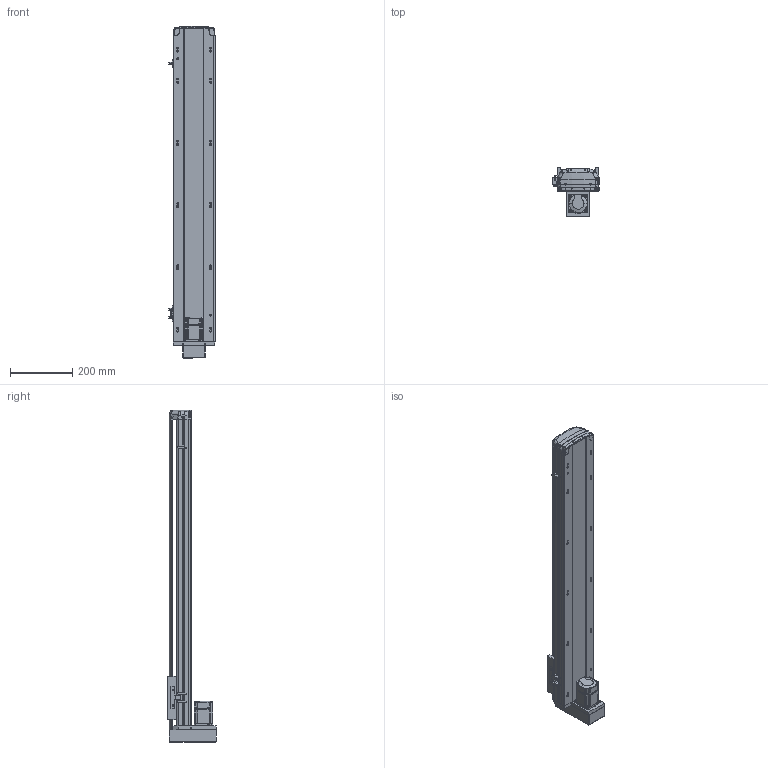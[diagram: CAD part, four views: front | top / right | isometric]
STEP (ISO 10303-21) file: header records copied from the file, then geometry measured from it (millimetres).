
FILE_DESCRIPTION (( 'STEP AP214' ), '1' );
FILE_NAME ('RTH14-XX-800-M-M20-C4.STEP', '2025-10-25T02:51:15', ( 'Microsoft' ), ( 'Microsoft' ), 'SwSTEP 2.0', 'SolidWorks 2018', '' );
FILE_SCHEMA (( 'AUTOMOTIVE_DESIGN' ));
Length unit declared in the file: millimetre
Products named in the file (10): N_OMRON EE-SX672 传感器^RTH14-XX-XX-M-M20-C4; N_RTH13-L-012感应片（外置）^RTH14-XX-XX-M-M20-C4; RTH14-XX-800-M-M20-C4; N_RTH14-R-004-SFSR16賑釱^RTH14-XX-XX-M-M20-C4; N_RTH13-M-018裔赽^RTH14-XX-XX-M-M20-C4; N_RTH14-M-007P奻裔^RTH14-XX-XX-M-M20-C4; N_MSMD022P1AA_200W^RTH14-XX-XX-M-M20-C4; N_RTH14-GY-001P^RTH14-XX-XX-M-M20-C4; N_RTH13-M-008萇儂啣狟殏^RTH14-XX-XX-M-M20-C4; N_RTH14-M-011P菁釱^RTH14-XX-XX-M-M20-C4
Assembly tree (11 placements, depth 2):
  RTH14-XX-800-M-M20-C4
    N_RTH14-M-011P菁釱^RTH14-XX-XX-M-M20-C4
    N_RTH14-M-007P奻裔^RTH14-XX-XX-M-M20-C4
    N_MSMD022P1AA_200W^RTH14-XX-XX-M-M20-C4
    N_RTH13-M-008萇儂啣狟殏^RTH14-XX-XX-M-M20-C4
    N_RTH13-M-018裔赽^RTH14-XX-XX-M-M20-C4
    N_RTH13-L-012感应片（外置）^RTH14-XX-XX-M-M20-C4
    N_OMRON EE-SX672 传感器^RTH14-XX-XX-M-M20-C4  x3
    N_RTH14-R-004-SFSR16賑釱^RTH14-XX-XX-M-M20-C4
    N_RTH14-GY-001P^RTH14-XX-XX-M-M20-C4
Bounding box: 148.5 x 156.5 x 1067.49 mm (x, y, z)
Volume: 4670430.9 mm3; surface area: 1072080.7 mm2
Topology: 11 solids, 11 shells, 1889 faces, 5282 edges, 3460 vertices
Faces by surface type: plane 997, cylinder 498, bspline 345, cone 45, torus 4
Entity records: 57764 total; most frequent: CARTESIAN_POINT 23173, ORIENTED_EDGE 7632, DIRECTION 6149, EDGE_CURVE 3816, VERTEX_POINT 2496, VECTOR 2187, LINE 2187, AXIS2_PLACEMENT_3D 1981
